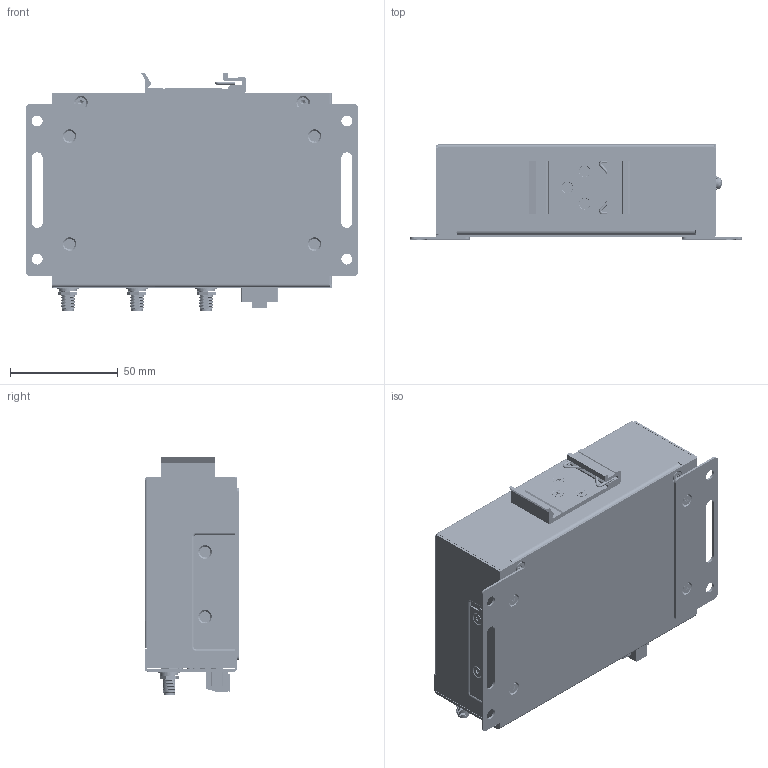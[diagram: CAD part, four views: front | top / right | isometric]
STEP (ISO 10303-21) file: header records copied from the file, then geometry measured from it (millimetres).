
FILE_DESCRIPTION (( 'STEP AP214' ), '1' );
FILE_NAME ('ICR-4133.STEP', '2024-11-05T08:18:09', ( '' ), ( '' ), 'SwSTEP 2.0', 'SolidWorks 2024', '' );
FILE_SCHEMA (( 'AUTOMOTIVE_DESIGN' ));
Length unit declared in the file: millimetre
Products named in the file (45): SCR_ZC_M3_L6_PH_PW; B-ICR41(2)xx-4_B-ICR41xxSS-4; Chassis_package-ICR-4(1,2)xx; ICR-4133; Lightpipe_4P; Pin_header_6x2P; Case_for_ICR-4(1,2)xx; SCR_BK_M3_L5_PH_FL_TW_GLUE; DIN_25_AL; RJ45_2x_Connector; BAT_CR1225; ThermalTape; chassisWallMount; Label_41W0C2G1; CON_WR2; POST_D4,5xL5; Thermal_pad_46x30; FM101-EAU_FM101-EAU; ChassisTop; PCI_Female_Connector_52P; ChassisBottom; ANT_PG_L150_SMA_I; USB_3_0_type_A; Label_SIM_SD_IO_configuration_SIM; Micro_SD_card_holder_part_1; CDS_M_H5_W7,3_CHM3; SCR_ZC_M3_L6_PH_PW_2; Radial_THT_Capacitor; Dip_Switch_2_positon; CoolingPadCellular; PCI_Female_Connector_67P; PCB_ICR-4(1,2)xx; Tact_Switch_right_angle; CoolingPadCellular_ICR4(1,2)33; Pluggable_Term_Blk_2P; Micro_SD_card_holder_part_2; SCR_BK_M3_L4_TX8_FL_SCR; ChassisSimCover; AlluminiumCooler; SIM_holder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
Assembly tree (66 placements, depth 5):
  ICR-4133
    Chassis_package-ICR-4(1,2)xx
      Case_for_ICR-4(1,2)xx
        Bottom_Base_for_ICR-4(1,2)xx
          ChassisBottom
          CDS_M_H5_W7,3_CHM3  x4
        ChassisTop
      ChassisSimCover
      ThermalTape
      chassisWallMount  x2
      AlluminiumCooler
    B-ICR41(2)xx-4_B-ICR41xxSS-4
      PCB_ICR-4(1,2)xx
      PCI_Female_Connector_52P
      POST_D4,5xL5
      Battery_SMT_holder_Keystone-PN3000
      Lightpipe_4P  x2
      RJ45_2x_Connector
      USB_3_0_type_A
      PCI_Female_Connector_67P
      SIM_holder  x2
      Tact_Switch_right_angle
      Radial_THT_Capacitor
      Pluggable_Term_Blk_2P
      Micro_SD_card_holder
        Micro_SD_card_holder_part_1
        Micro_SD_card_holder_part_2
      POST_D6xL4
      Dip_Switch_2_positon
      Pin_header_6x2P
    CON_WR2
    BAT_CR1225
    DIN_25_AL
    Label_SIM_SD_IO_configuration_SIM
    Label_41W0C2G1
    Thermal_pad_46x30
    CoolingPadCellular
    CoolingPadCellular_ICR4(1,2)33
    FM101-EAU_FM101-EAU
    ANT_PG_L150_SMA_I  x3
    SCR_BK_M3_L4_TX8_FL_SCR  x4
    SCR_BK_M3_L5_PH_FL_TW_GLUE  x7
    SCR_BK_M3_L5_PH_FL_TW  x2
    SCR_ZC_M3_L6_PH_PW_2
    SCR_ZC_M3_L6_PH_PW  x5
Bounding box: 153.9 x 44 x 110.25 mm (x, y, z)
Volume: 96289.4 mm3; surface area: 194585.6 mm2
Topology: 80 solids, 121 shells, 13828 faces, 38201 edges, 25062 vertices
Faces by surface type: plane 8004, bspline 2840, cylinder 2591, cone 238, torus 121, sphere 34
Entity records: 466459 total; most frequent: CARTESIAN_POINT 136007, ORIENTED_EDGE 65627, DIRECTION 47927, EDGE_CURVE 32998, VERTEX_POINT 21657, VECTOR 20783, LINE 20783, AXIS2_PLACEMENT_3D 13572
